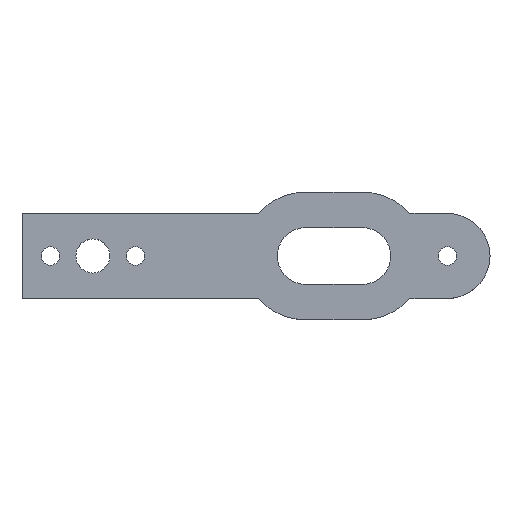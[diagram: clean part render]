
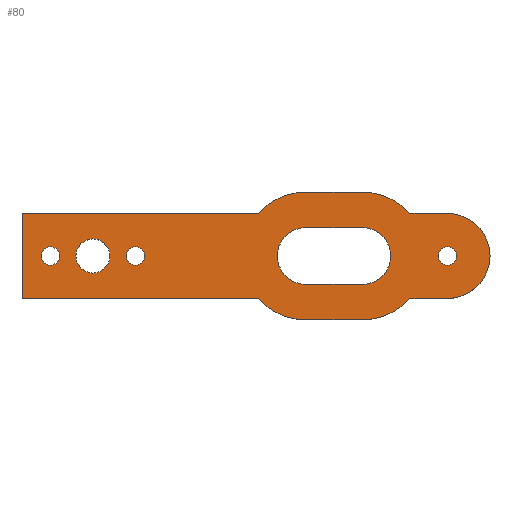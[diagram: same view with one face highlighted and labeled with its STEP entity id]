
A CAD part, top view. The second image highlights one B-rep face of the part: STEP entity #80.
In plain terms, the highlighted planar face has unit normal (0, 0, 1).
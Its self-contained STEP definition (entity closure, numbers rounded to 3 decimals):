
#80 = ADVANCED_FACE( '', ( #166, #167, #168, #169, #170, #171 ), #172, .T. );
#166 = FACE_BOUND( '', #253, .T. );
#167 = FACE_BOUND( '', #254, .T. );
#168 = FACE_BOUND( '', #255, .T. );
#169 = FACE_BOUND( '', #256, .T. );
#170 = FACE_OUTER_BOUND( '', #257, .T. );
#171 = FACE_BOUND( '', #258, .T. );
#172 = PLANE( '', #259 );
#253 = EDGE_LOOP( '', ( #421 ) );
#254 = EDGE_LOOP( '', ( #422 ) );
#255 = EDGE_LOOP( '', ( #423 ) );
#256 = EDGE_LOOP( '', ( #424 ) );
#257 = EDGE_LOOP( '', ( #425, #426, #427, #428, #429, #430, #431, #432, #433, #434, #435, #436 ) );
#258 = EDGE_LOOP( '', ( #437, #438, #439, #440 ) );
#259 = AXIS2_PLACEMENT_3D( '', #441, #442, #443 );
#421 = ORIENTED_EDGE( '', *, *, #530, .F. );
#422 = ORIENTED_EDGE( '', *, *, #543, .F. );
#423 = ORIENTED_EDGE( '', *, *, #536, .F. );
#424 = ORIENTED_EDGE( '', *, *, #491, .F. );
#425 = ORIENTED_EDGE( '', *, *, #476, .T. );
#426 = ORIENTED_EDGE( '', *, *, #522, .F. );
#427 = ORIENTED_EDGE( '', *, *, #527, .F. );
#428 = ORIENTED_EDGE( '', *, *, #541, .F. );
#429 = ORIENTED_EDGE( '', *, *, #544, .T. );
#430 = ORIENTED_EDGE( '', *, *, #517, .T. );
#431 = ORIENTED_EDGE( '', *, *, #545, .T. );
#432 = ORIENTED_EDGE( '', *, *, #546, .F. );
#433 = ORIENTED_EDGE( '', *, *, #532, .F. );
#434 = ORIENTED_EDGE( '', *, *, #538, .F. );
#435 = ORIENTED_EDGE( '', *, *, #488, .T. );
#436 = ORIENTED_EDGE( '', *, *, #525, .T. );
#437 = ORIENTED_EDGE( '', *, *, #511, .T. );
#438 = ORIENTED_EDGE( '', *, *, #514, .T. );
#439 = ORIENTED_EDGE( '', *, *, #482, .T. );
#440 = ORIENTED_EDGE( '', *, *, #520, .T. );
#441 = CARTESIAN_POINT( '', ( 0., 0., 5. ) );
#442 = DIRECTION( '', ( 0., 0., 1. ) );
#443 = DIRECTION( '', ( 1., 0., 0. ) );
#476 = EDGE_CURVE( '', #556, #553, #557, .T. );
#482 = EDGE_CURVE( '', #567, #565, #568, .T. );
#488 = EDGE_CURVE( '', #572, #576, #578, .T. );
#491 = EDGE_CURVE( '', #582, #582, #583, .T. );
#511 = EDGE_CURVE( '', #617, #615, #618, .T. );
#514 = EDGE_CURVE( '', #615, #567, #621, .T. );
#517 = EDGE_CURVE( '', #625, #623, #626, .T. );
#520 = EDGE_CURVE( '', #565, #617, #629, .T. );
#522 = EDGE_CURVE( '', #631, #553, #632, .T. );
#525 = EDGE_CURVE( '', #576, #556, #635, .T. );
#527 = EDGE_CURVE( '', #637, #631, #638, .T. );
#530 = EDGE_CURVE( '', #641, #641, #642, .T. );
#532 = EDGE_CURVE( '', #644, #645, #646, .T. );
#536 = EDGE_CURVE( '', #650, #650, #651, .T. );
#538 = EDGE_CURVE( '', #572, #644, #653, .T. );
#541 = EDGE_CURVE( '', #655, #637, #657, .T. );
#543 = EDGE_CURVE( '', #659, #659, #660, .T. );
#544 = EDGE_CURVE( '', #655, #625, #661, .T. );
#545 = EDGE_CURVE( '', #623, #662, #663, .T. );
#546 = EDGE_CURVE( '', #645, #662, #664, .T. );
#553 = VERTEX_POINT( '', #671 );
#556 = VERTEX_POINT( '', #675 );
#557 = LINE( '', #676, #677 );
#565 = VERTEX_POINT( '', #688 );
#567 = VERTEX_POINT( '', #691 );
#568 = LINE( '', #692, #693 );
#572 = VERTEX_POINT( '', #698 );
#576 = VERTEX_POINT( '', #704 );
#578 = LINE( '', #707, #708 );
#582 = VERTEX_POINT( '', #712 );
#583 = CIRCLE( '', #713, 3.25 );
#615 = VERTEX_POINT( '', #751 );
#617 = VERTEX_POINT( '', #754 );
#618 = LINE( '', #755, #756 );
#621 = CIRCLE( '', #760, 10. );
#623 = VERTEX_POINT( '', #762 );
#625 = VERTEX_POINT( '', #765 );
#626 = LINE( '', #766, #767 );
#629 = CIRCLE( '', #771, 10. );
#631 = VERTEX_POINT( '', #773 );
#632 = CIRCLE( '', #774, 22.5 );
#635 = CIRCLE( '', #778, 15. );
#637 = VERTEX_POINT( '', #780 );
#638 = LINE( '', #781, #782 );
#641 = VERTEX_POINT( '', #786 );
#642 = CIRCLE( '', #787, 6. );
#644 = VERTEX_POINT( '', #789 );
#645 = VERTEX_POINT( '', #790 );
#646 = LINE( '', #791, #792 );
#650 = VERTEX_POINT( '', #798 );
#651 = CIRCLE( '', #799, 3.25 );
#653 = CIRCLE( '', #801, 22.5 );
#655 = VERTEX_POINT( '', #803 );
#657 = CIRCLE( '', #806, 22.5 );
#659 = VERTEX_POINT( '', #808 );
#660 = CIRCLE( '', #809, 3.25 );
#661 = LINE( '', #810, #811 );
#662 = VERTEX_POINT( '', #812 );
#663 = LINE( '', #813, #814 );
#664 = CIRCLE( '', #815, 22.5 );
#671 = CARTESIAN_POINT( '', ( 136.771, 0., 5. ) );
#675 = CARTESIAN_POINT( '', ( 150., 0., 5. ) );
#676 = CARTESIAN_POINT( '', ( 165., 0., 5. ) );
#677 = VECTOR( '', #823, 1000. );
#688 = CARTESIAN_POINT( '', ( 120., -5., 5. ) );
#691 = CARTESIAN_POINT( '', ( 100., -5., 5. ) );
#692 = CARTESIAN_POINT( '', ( 100., -5., 5. ) );
#693 = VECTOR( '', #828, 1000. );
#698 = CARTESIAN_POINT( '', ( 136.771, -30., 5. ) );
#704 = CARTESIAN_POINT( '', ( 150., -30., 5. ) );
#707 = CARTESIAN_POINT( '', ( 0., -30., 5. ) );
#708 = VECTOR( '', #833, 1000. );
#712 = CARTESIAN_POINT( '', ( 153.25, -15., 5. ) );
#713 = AXIS2_PLACEMENT_3D( '', #837, #838, #839 );
#751 = CARTESIAN_POINT( '', ( 100., -25., 5. ) );
#754 = CARTESIAN_POINT( '', ( 120., -25., 5. ) );
#755 = CARTESIAN_POINT( '', ( 100., -25., 5. ) );
#756 = VECTOR( '', #877, 1000. );
#760 = AXIS2_PLACEMENT_3D( '', #879, #880, #881 );
#762 = CARTESIAN_POINT( '', ( 0., -30., 5. ) );
#765 = CARTESIAN_POINT( '', ( 0., 0., 5. ) );
#766 = CARTESIAN_POINT( '', ( 0., 0., 5. ) );
#767 = VECTOR( '', #883, 1000. );
#771 = AXIS2_PLACEMENT_3D( '', #885, #886, #887 );
#773 = CARTESIAN_POINT( '', ( 120., 7.5, 5. ) );
#774 = AXIS2_PLACEMENT_3D( '', #888, #889, #890 );
#778 = AXIS2_PLACEMENT_3D( '', #892, #893, #894 );
#780 = CARTESIAN_POINT( '', ( 100., 7.5, 5. ) );
#781 = CARTESIAN_POINT( '', ( 100., 7.5, 5. ) );
#782 = VECTOR( '', #895, 1000. );
#786 = CARTESIAN_POINT( '', ( 31., -15., 5. ) );
#787 = AXIS2_PLACEMENT_3D( '', #897, #898, #899 );
#789 = CARTESIAN_POINT( '', ( 120., -37.5, 5. ) );
#790 = CARTESIAN_POINT( '', ( 100., -37.5, 5. ) );
#791 = CARTESIAN_POINT( '', ( 100., -37.5, 5. ) );
#792 = VECTOR( '', #900, 1000. );
#798 = CARTESIAN_POINT( '', ( 43.25, -15., 5. ) );
#799 = AXIS2_PLACEMENT_3D( '', #903, #904, #905 );
#801 = AXIS2_PLACEMENT_3D( '', #906, #907, #908 );
#803 = CARTESIAN_POINT( '', ( 83.229, 0., 5. ) );
#806 = AXIS2_PLACEMENT_3D( '', #910, #911, #912 );
#808 = CARTESIAN_POINT( '', ( 13.25, -15., 5. ) );
#809 = AXIS2_PLACEMENT_3D( '', #913, #914, #915 );
#810 = CARTESIAN_POINT( '', ( 165., 0., 5. ) );
#811 = VECTOR( '', #916, 1000. );
#812 = CARTESIAN_POINT( '', ( 83.229, -30., 5. ) );
#813 = CARTESIAN_POINT( '', ( 0., -30., 5. ) );
#814 = VECTOR( '', #917, 1000. );
#815 = AXIS2_PLACEMENT_3D( '', #918, #919, #920 );
#823 = DIRECTION( '', ( -1., 0., 0. ) );
#828 = DIRECTION( '', ( 1., 0., 0. ) );
#833 = DIRECTION( '', ( 1., 0., 0. ) );
#837 = CARTESIAN_POINT( '', ( 150., -15., 5. ) );
#838 = DIRECTION( '', ( 0., 0., 1. ) );
#839 = DIRECTION( '', ( 1., 0., 0. ) );
#877 = DIRECTION( '', ( -1., 0., 0. ) );
#879 = CARTESIAN_POINT( '', ( 100., -15., 5. ) );
#880 = DIRECTION( '', ( 0., 0., -1. ) );
#881 = DIRECTION( '', ( 1., 0., 0. ) );
#883 = DIRECTION( '', ( 0., -1., 0. ) );
#885 = CARTESIAN_POINT( '', ( 120., -15., 5. ) );
#886 = DIRECTION( '', ( 0., 0., -1. ) );
#887 = DIRECTION( '', ( -1., 0., 0. ) );
#888 = CARTESIAN_POINT( '', ( 120., -15., 5. ) );
#889 = DIRECTION( '', ( 0., 0., -1. ) );
#890 = DIRECTION( '', ( -1., 0., 0. ) );
#892 = CARTESIAN_POINT( '', ( 150., -15., 5. ) );
#893 = DIRECTION( '', ( 0., 0., 1. ) );
#894 = DIRECTION( '', ( 1., 0., 0. ) );
#895 = DIRECTION( '', ( 1., 0., 0. ) );
#897 = CARTESIAN_POINT( '', ( 25., -15., 5. ) );
#898 = DIRECTION( '', ( 0., 0., 1. ) );
#899 = DIRECTION( '', ( 1., 0., 0. ) );
#900 = DIRECTION( '', ( -1., 0., 0. ) );
#903 = CARTESIAN_POINT( '', ( 40., -15., 5. ) );
#904 = DIRECTION( '', ( 0., 0., 1. ) );
#905 = DIRECTION( '', ( 1., 0., 0. ) );
#906 = CARTESIAN_POINT( '', ( 120., -15., 5. ) );
#907 = DIRECTION( '', ( 0., 0., -1. ) );
#908 = DIRECTION( '', ( -1., 0., 0. ) );
#910 = CARTESIAN_POINT( '', ( 100., -15., 5. ) );
#911 = DIRECTION( '', ( 0., 0., -1. ) );
#912 = DIRECTION( '', ( 1., 0., 0. ) );
#913 = CARTESIAN_POINT( '', ( 10., -15., 5. ) );
#914 = DIRECTION( '', ( 0., 0., 1. ) );
#915 = DIRECTION( '', ( 1., 0., 0. ) );
#916 = DIRECTION( '', ( -1., 0., 0. ) );
#917 = DIRECTION( '', ( 1., 0., 0. ) );
#918 = CARTESIAN_POINT( '', ( 100., -15., 5. ) );
#919 = DIRECTION( '', ( 0., 0., -1. ) );
#920 = DIRECTION( '', ( 1., 0., 0. ) );
